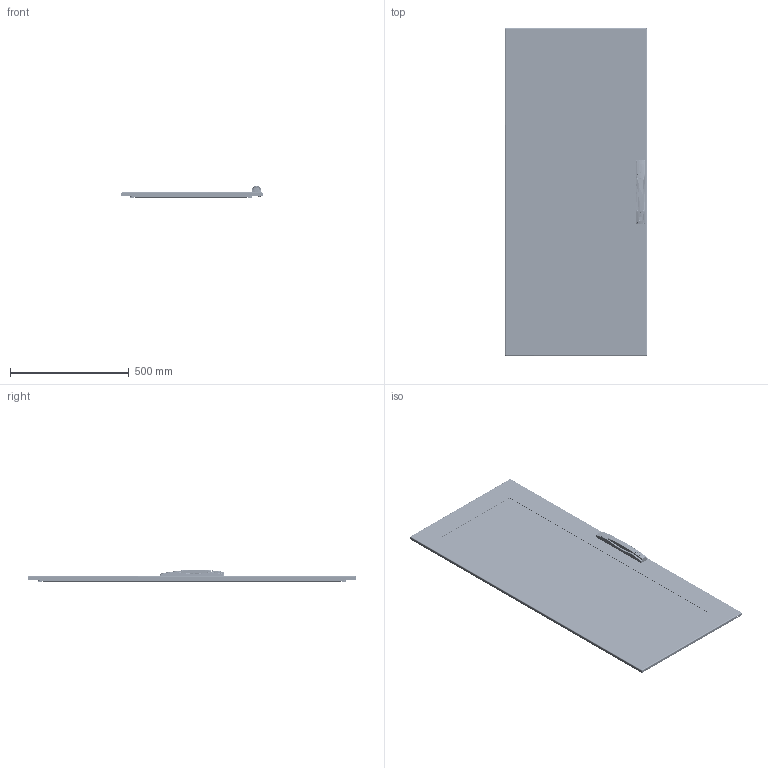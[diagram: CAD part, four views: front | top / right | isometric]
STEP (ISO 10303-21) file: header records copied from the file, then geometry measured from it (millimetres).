
FILE_DESCRIPTION (( 'STEP AP203' ), '1' );
FILE_NAME ('p2dwg146.STEP', '2016-09-15T17:58:54', ( '' ), ( '' ), 'SwSTEP 2.0', 'SolidWorks 2014', '' );
FILE_SCHEMA (( 'CONFIG_CONTROL_DESIGN' ));
Length unit declared in the file: millimetre
Products named in the file (54): 11358764; 11158133_11581133; 89128804; 89128981_87412792; 89134078_60127430; 87931368_SLEEVE; 46120001_Compressed; 11258013; 89128798; 60127175_60127175; 89126528_87412775; 89130152_BBD; 60100041_60100041; 51223001; 11258012; 51232001_51232001; 60127140_60127140; 89128933; p2dwg146; 89124458_After Weld; 51138001_Compressed; 11358763; 60127173_60127173; 60127138_60127138; 89129017; 60127172_60127172; 60127093; 51231001; 60127277_60127277; 87576035_87576035; 89091664_875472289; 87920638_87920638; 51137001; 11258014; 11458037; 60127216_60127216; 89124179_89124179; 99401225; 60127208; 46139001_46139001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
Assembly tree (113 placements, depth 5):
  p2dwg146
    89130152_BBD
      89128887_89124438
        89128910
        60100041_60100041  x2
          87931527_87931527
          87931368_SLEEVE
        89124458_After Weld  x3
        60127172_60127172  x3
        87920638_87920638  x16
        99401225  x16
      89128956
      89128981_87412792  x2
      89126528_87412775  x2
      89128933
      89129017
      89128829_89128829
        89091664_875472289  x4
        89124179_89124179  x2
        89126141_89124180  x2
      89128798
        89128804
        60127175_60127175  x2
        60127216_60127216  x3
          60127140_60127140
          60127138_60127138
          87576035_87576035
        60127139_60127139  x4
        11158132_THIKNESS .155 FIXED  x8
        11158133_11581133  x3
      60127277_60127277  x3
        51232001_51232001
        60127173_60127173
      89134078_60127430
        11458037
        11458036
        51140001
        11358764
        11258013
        11258012
        11358763
        51231001
        11258014
        46139001_46139001  x2
        51145001_Extended
        11358765
        46120001_Compressed
        51223001
        51138001_Compressed
        60127093
        51137001
        60127208
        60127212
        60127207
Bounding box: 598 x 1383 x 53.03 mm (x, y, z)
Volume: 4761157.5 mm3; surface area: 3039153.8 mm2
Topology: 112 solids, 112 shells, 6588 faces, 16598 edges, 10351 vertices
Faces by surface type: plane 2687, cylinder 2348, torus 744, cone 492, bspline 292, sphere 25
Entity records: 119875 total; most frequent: CARTESIAN_POINT 31568, DIRECTION 16978, ORIENTED_EDGE 16966, EDGE_CURVE 8483, AXIS2_PLACEMENT_3D 6366, VERTEX_POINT 5360, VECTOR 4246, LINE 4246
